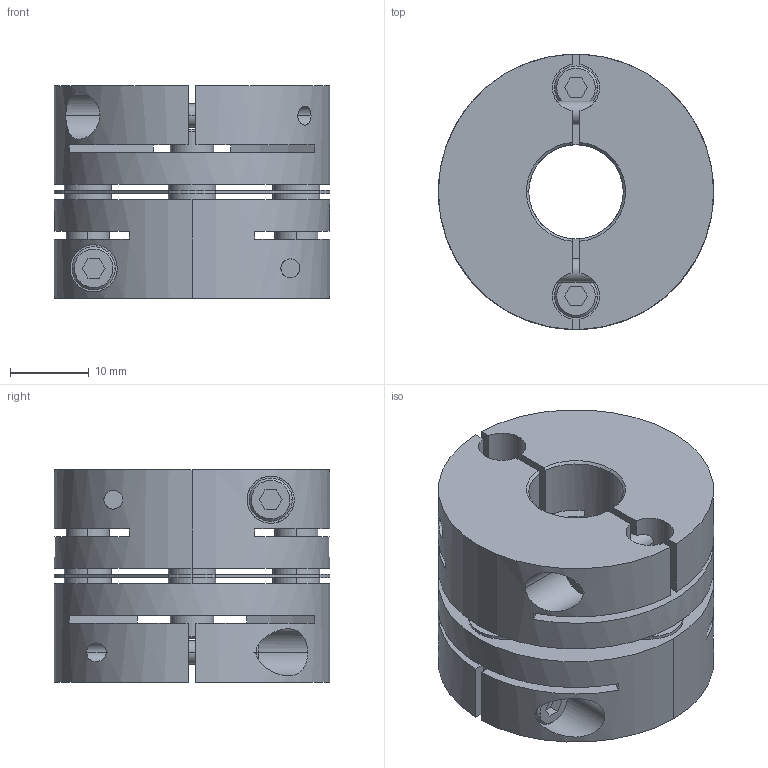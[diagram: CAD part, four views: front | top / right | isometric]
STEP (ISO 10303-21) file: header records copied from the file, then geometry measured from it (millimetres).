
FILE_DESCRIPTION((''),'2;1');
FILE_NAME('LAS-35C-12×16.stp','2011-08-10T16:48:46',(''),(''),'AutoCAD STEP 2000i','AutoCAD 2000i',', , ');
FILE_SCHEMA(('CONFIG_CONTROL_DESIGN'));
Length unit declared in the file: millimetre
Products named in the file (6): LAS-35C-8×14; 忣兜1; LA-3502-D14; LA-3502-D08-1; LA-3502-D08; LAS35-ITA
Assembly tree (5 placements, depth 2):
  LAS-35C-8×14
    忣兜1
    LA-3502-D14
    LA-3502-D08-1
    LA-3502-D08
    LAS35-ITA
Bounding box: 35 x 35 x 27 mm (x, y, z)
Volume: 18148.4 mm3; surface area: 11707.6 mm2
Topology: 1 solids, 1 shells, 236 faces, 624 edges, 408 vertices
Faces by surface type: plane 112, cylinder 96, cone 28
Entity records: 8251 total; most frequent: CARTESIAN_POINT 2068, DIRECTION 1288, ORIENTED_EDGE 1248, EDGE_CURVE 624, AXIS2_PLACEMENT_3D 470, VERTEX_POINT 408, VECTOR 348, LINE 348
